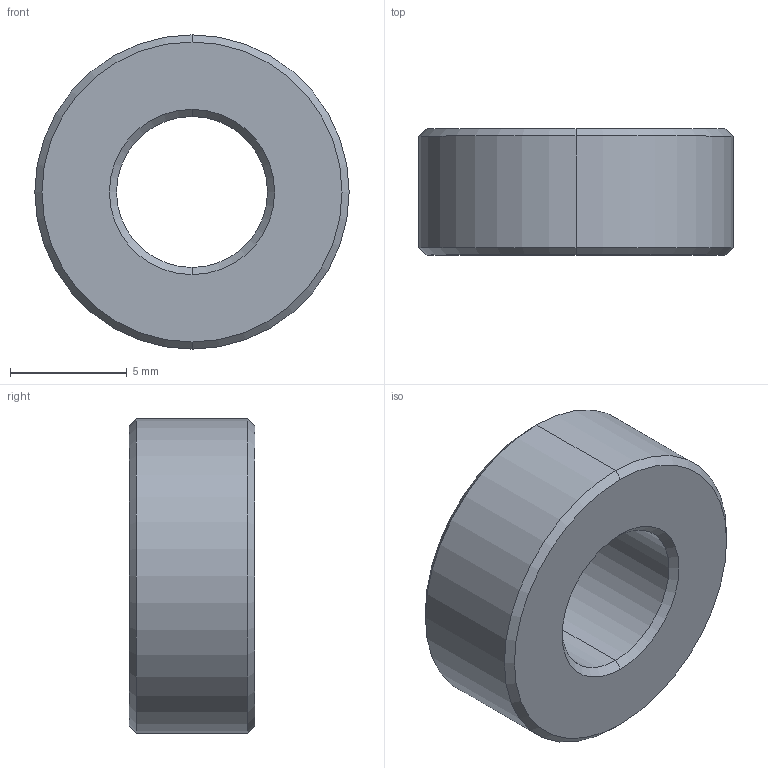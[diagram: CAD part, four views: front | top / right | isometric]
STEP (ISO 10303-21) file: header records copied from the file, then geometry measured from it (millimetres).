
FILE_DESCRIPTION (( 'STEP AP203' ), '1' );
FILE_NAME ('5943000321.STEP', '2019-05-07T19:19:20', ( '' ), ( '' ), 'SwSTEP 2.0', 'SolidWorks 2018', '' );
FILE_SCHEMA (( 'CONFIG_CONTROL_DESIGN' ));
Length unit declared in the file: inch
Products named in the file (1): 5943000321
Bounding box: 13.44 x 5.38 x 13.44 mm (x, y, z)
Volume: 581.7 mm3; surface area: 532.3 mm2
Topology: 1 solids, 1 shells, 14 faces, 28 edges, 16 vertices
Faces by surface type: cone 8, cylinder 4, plane 2
Entity records: 447 total; most frequent: DIRECTION 74, CARTESIAN_POINT 59, ORIENTED_EDGE 56, AXIS2_PLACEMENT_3D 31, EDGE_CURVE 28, CIRCLE 16, EDGE_LOOP 16, VERTEX_POINT 16
